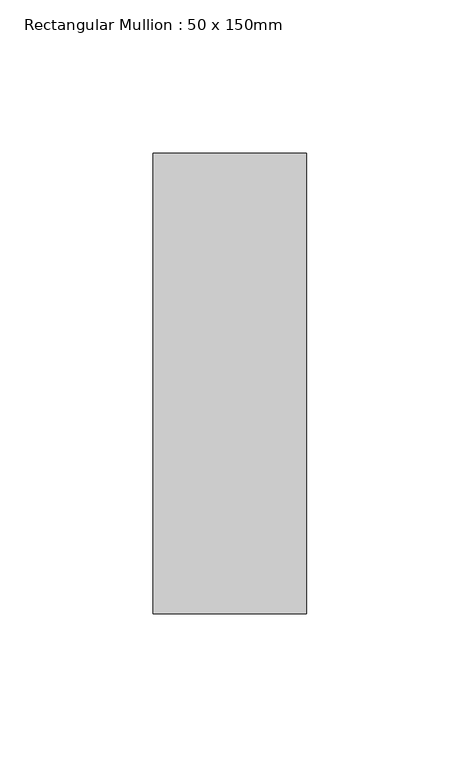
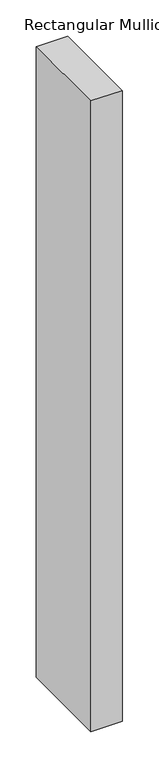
"""IFC4 building model written with IfcOpenShell, lengths in millimetres: member geometry, Rectangular Mullion : 50 x 150mm."""

from ifc_helpers import new_model, si_unit, frame, origin, place, context, project, spatial, polyline, outline, extrude, source, transform, mapped, element, save


def rectangular_mullion_50_x_150mm_010f09c0(model_context):
    return source(origin(), model_context, "Body", "SweptSolid", [
        extrude(outline(polyline([(0.0, 75.0), (0.0, -75.0), (-50.0, -75.0), (-50.0, 75.0), (0.0, 75.0)])), frame((0.0, 0.0, -1058.7072796), z_axis=(0.0, 0.0, 1.0), x_axis=(1.0, 0.0, 0.0)), (0.0, 0.0, 1.0), 1058.7072796),
    ])


if __name__ == "__main__":
    model = new_model("IFC4")
    model_context = context("Model", 3, world=origin())
    ifc_project = project(units=[si_unit("LENGTHUNIT", "METRE", prefix="MILLI")], contexts=[model_context])
    site = spatial("IfcSite", under=ifc_project)
    building = spatial("IfcBuilding", under=site)
    placement = place(None, origin())
    rectangular_mullion_50_x_150mm_shape = rectangular_mullion_50_x_150mm_010f09c0(model_context)
    element("IfcMember", 1, ObjectType="Rectangular Mullion : 50 x 150mm", at=placement, inside=building, context=model_context, shape_type="MappedRepresentation", body=[
        mapped(rectangular_mullion_50_x_150mm_shape, transform((0.0, 0.0, 0.0), x_axis=(1.0, 0.0, 0.0), y_axis=(0.0, 1.0, 0.0), z_axis=(0.0, 0.0, 1.0))),
    ])
    save(model, "model.ifc")
